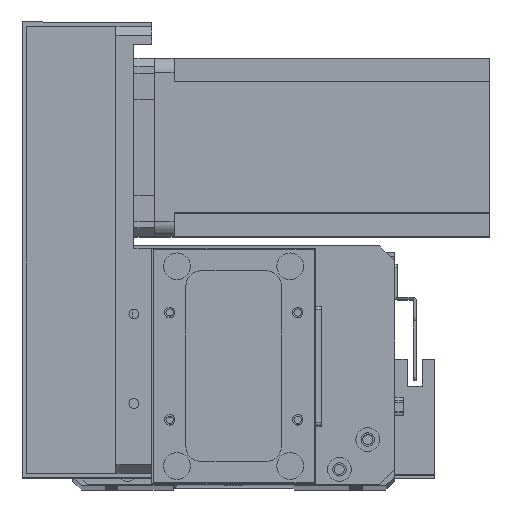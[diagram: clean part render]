
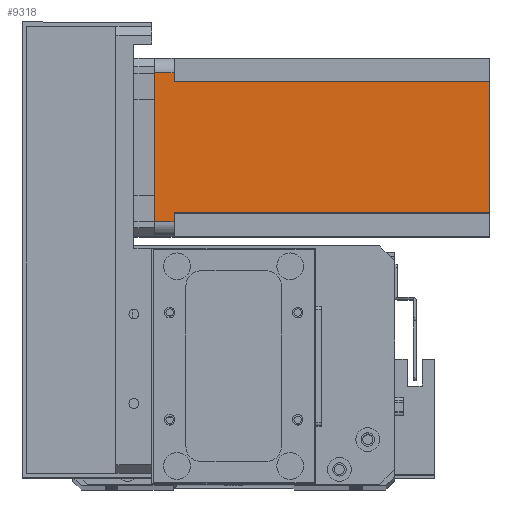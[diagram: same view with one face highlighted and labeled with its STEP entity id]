
A CAD part, top view. The second image highlights one B-rep face of the part: STEP entity #9318.
In plain terms, the highlighted planar face has unit normal (0, 0, 1) as drawn and (0, -1, 0) by its records, which use the part's own axes.
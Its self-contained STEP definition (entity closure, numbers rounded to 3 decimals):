
#571 = ORIENTED_EDGE ( 'NONE', *, *, #19481, .T. ) ;
#1399 = DIRECTION ( 'NONE',  ( -1., 0., 0. ) ) ;
#2550 = LINE ( 'NONE', #2942, #6741 ) ;
#2942 = CARTESIAN_POINT ( 'NONE',  ( 52., 0., -6.5 ) ) ;
#3336 = VECTOR ( 'NONE', #12620, 1000. ) ;
#4501 = VECTOR ( 'NONE', #24914, 1000. ) ;
#5113 = VERTEX_POINT ( 'NONE', #20872 ) ;
#5171 = EDGE_LOOP ( 'NONE', ( #8687, #571, #13043, #23995, #8888, #7078, #19411, #15400 ) ) ;
#6663 = DIRECTION ( 'NONE',  ( 0., 0., 1. ) ) ;
#6741 = VECTOR ( 'NONE', #14584, 1000. ) ;
#6970 = VERTEX_POINT ( 'NONE', #22528 ) ;
#6997 = VERTEX_POINT ( 'NONE', #24928 ) ;
#7078 = ORIENTED_EDGE ( 'NONE', *, *, #17652, .F. ) ;
#7873 = CARTESIAN_POINT ( 'NONE',  ( 55., 0., -112.5 ) ) ;
#7938 = PLANE ( 'NONE',  #29086 ) ;
#8048 = DIRECTION ( 'NONE',  ( 0., 0., -1. ) ) ;
#8590 = CARTESIAN_POINT ( 'NONE',  ( 55., 0., -6.5 ) ) ;
#8687 = ORIENTED_EDGE ( 'NONE', *, *, #19491, .T. ) ;
#8699 = DIRECTION ( 'NONE',  ( 0., 0., -1. ) ) ;
#8888 = ORIENTED_EDGE ( 'NONE', *, *, #18192, .F. ) ;
#9318 = ADVANCED_FACE ( 'NONE', ( #9724 ), #7938, .T. ) ;
#9724 = FACE_OUTER_BOUND ( 'NONE', #5171, .T. ) ;
#10396 = CARTESIAN_POINT ( 'NONE',  ( 5., 0., -112.5 ) ) ;
#10905 = LINE ( 'NONE', #13195, #22738 ) ;
#11527 = CARTESIAN_POINT ( 'NONE',  ( 0., 0., -112.5 ) ) ;
#12620 = DIRECTION ( 'NONE',  ( 0., 0., -1. ) ) ;
#13043 = ORIENTED_EDGE ( 'NONE', *, *, #23557, .F. ) ;
#13096 = VERTEX_POINT ( 'NONE', #17690 ) ;
#13195 = CARTESIAN_POINT ( 'NONE',  ( 8., 0., -6.5 ) ) ;
#14277 = CARTESIAN_POINT ( 'NONE',  ( 55., 0., 0. ) ) ;
#14584 = DIRECTION ( 'NONE',  ( 1., 0., 0. ) ) ;
#15400 = ORIENTED_EDGE ( 'NONE', *, *, #17403, .F. ) ;
#15408 = VECTOR ( 'NONE', #6663, 1000. ) ;
#15415 = VECTOR ( 'NONE', #27125, 1000. ) ;
#16104 = LINE ( 'NONE', #11527, #4501 ) ;
#16316 = VERTEX_POINT ( 'NONE', #17714 ) ;
#16406 = LINE ( 'NONE', #10396, #3336 ) ;
#16788 = VERTEX_POINT ( 'NONE', #14277 ) ;
#17403 = EDGE_CURVE ( 'NONE', #6997, #13096, #24529, .T. ) ;
#17645 = EDGE_CURVE ( 'NONE', #6970, #13096, #16104, .T. ) ;
#17652 = EDGE_CURVE ( 'NONE', #6970, #5113, #27389, .T. ) ;
#17690 = CARTESIAN_POINT ( 'NONE',  ( 52., 0., -112.5 ) ) ;
#17714 = CARTESIAN_POINT ( 'NONE',  ( 5., 0., -6.5 ) ) ;
#18192 = EDGE_CURVE ( 'NONE', #5113, #16316, #10905, .T. ) ;
#18623 = EDGE_CURVE ( 'NONE', #20802, #16316, #16406, .T. ) ;
#19210 = CARTESIAN_POINT ( 'NONE',  ( 0., 0., -112.5 ) ) ;
#19411 = ORIENTED_EDGE ( 'NONE', *, *, #17645, .T. ) ;
#19481 = EDGE_CURVE ( 'NONE', #25698, #16788, #19492, .T. ) ;
#19491 = EDGE_CURVE ( 'NONE', #6997, #25698, #2550, .T. ) ;
#19492 = LINE ( 'NONE', #7873, #25548 ) ;
#20802 = VERTEX_POINT ( 'NONE', #26343 ) ;
#20872 = CARTESIAN_POINT ( 'NONE',  ( 8., 0., -6.5 ) ) ;
#21344 = LINE ( 'NONE', #24854, #15415 ) ;
#21518 = DIRECTION ( 'NONE',  ( 0., -1., 0. ) ) ;
#22528 = CARTESIAN_POINT ( 'NONE',  ( 8., 0., -112.5 ) ) ;
#22738 = VECTOR ( 'NONE', #1399, 1000. ) ;
#23557 = EDGE_CURVE ( 'NONE', #20802, #16788, #21344, .T. ) ;
#23652 = DIRECTION ( 'NONE',  ( 0., 0., 1. ) ) ;
#23995 = ORIENTED_EDGE ( 'NONE', *, *, #18623, .T. ) ;
#24529 = LINE ( 'NONE', #26701, #29898 ) ;
#24854 = CARTESIAN_POINT ( 'NONE',  ( 0., 0., 0. ) ) ;
#24914 = DIRECTION ( 'NONE',  ( 1., 0., 0. ) ) ;
#24928 = CARTESIAN_POINT ( 'NONE',  ( 52., 0., -6.5 ) ) ;
#25548 = VECTOR ( 'NONE', #23652, 1000. ) ;
#25698 = VERTEX_POINT ( 'NONE', #8590 ) ;
#26343 = CARTESIAN_POINT ( 'NONE',  ( 5., 0., 0. ) ) ;
#26701 = CARTESIAN_POINT ( 'NONE',  ( 52., 0., -112.5 ) ) ;
#27125 = DIRECTION ( 'NONE',  ( 1., 0., 0. ) ) ;
#27193 = CARTESIAN_POINT ( 'NONE',  ( 8., 0., -112.5 ) ) ;
#27389 = LINE ( 'NONE', #27193, #15408 ) ;
#29086 = AXIS2_PLACEMENT_3D ( 'NONE', #19210, #21518, #8048 ) ;
#29898 = VECTOR ( 'NONE', #8699, 1000. ) ;
